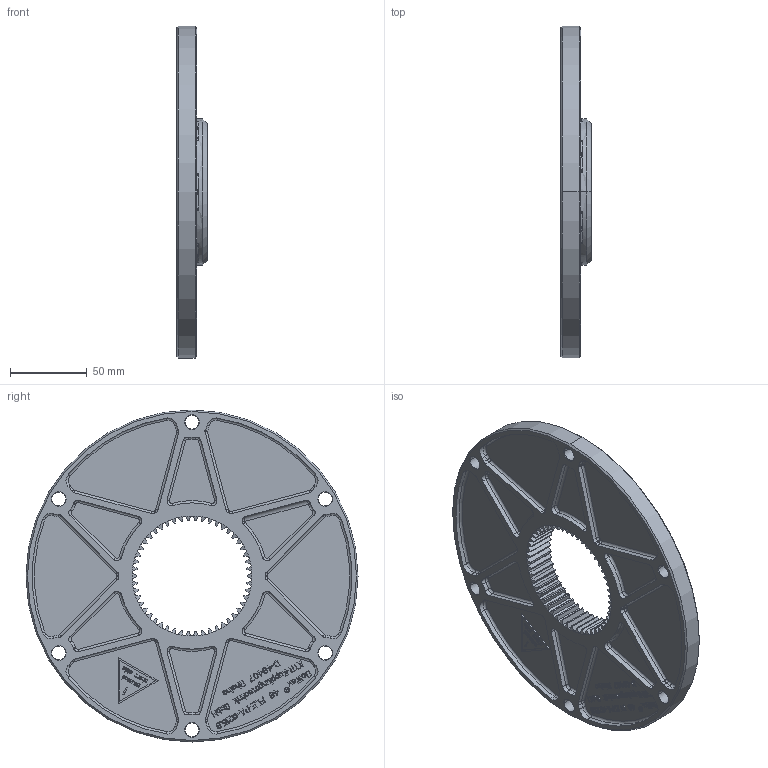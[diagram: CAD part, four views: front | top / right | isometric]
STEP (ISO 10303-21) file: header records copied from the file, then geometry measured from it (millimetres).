
FILE_DESCRIPTION((''),'2;1');
FILE_NAME('405683_4','2024-01-24T13:59:12',('j.gessner'),(''),'CREO PARAMETRIC BY PTC INC, 2022124','CREO PARAMETRIC BY PTC INC, 2022124','');
FILE_SCHEMA(('CONFIG_CONTROL_DESIGN'));
Products named in the file (1): 405683_4
Bounding box: 20 x 215.8 x 215.8 mm (x, y, z)
Volume: 225506.4 mm3; surface area: 100777.2 mm2
Topology: 1 solids, 1 shells, 5077 faces, 14008 edges, 9179 vertices
Faces by surface type: plane 4377, cylinder 363, cone 130, torus 119, bspline 84, sphere 4
Entity records: 160877 total; most frequent: CARTESIAN_POINT 31166, ORIENTED_EDGE 28014, DIRECTION 24957, EDGE_CURVE 14007, VECTOR 12553, LINE 12553, VERTEX_POINT 9179, AXIS2_PLACEMENT_3D 6202
